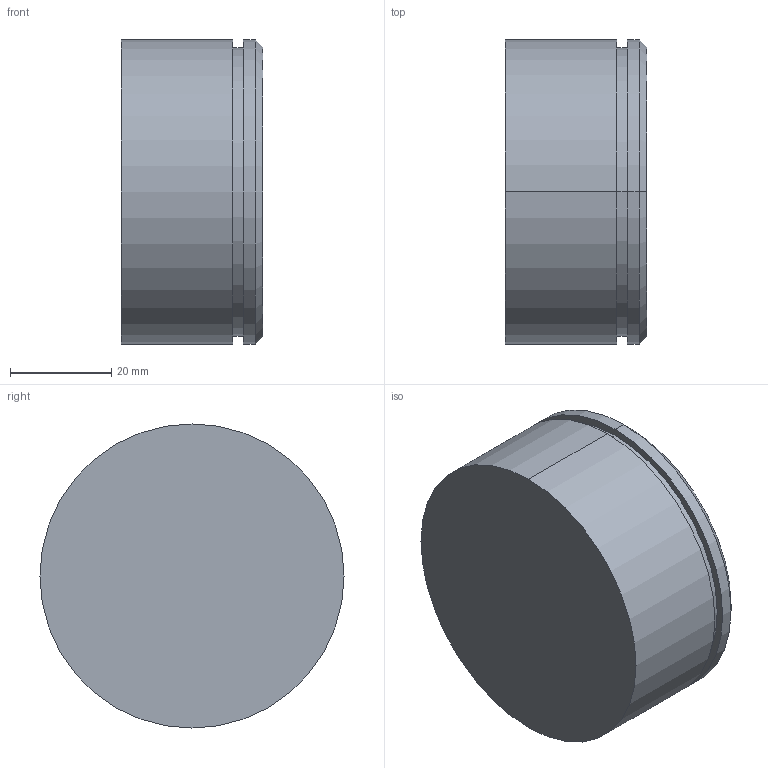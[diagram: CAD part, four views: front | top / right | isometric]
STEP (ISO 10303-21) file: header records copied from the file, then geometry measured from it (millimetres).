
FILE_DESCRIPTION (( 'STEP AP203' ), '1' );
FILE_NAME ('S5-60.STEP', '2002-08-16T10:51:02', ( '.' ), ( '.' ), 'SwSTEP 2.0', 'SolidWorks 2001340', '' );
FILE_SCHEMA (( 'CONFIG_CONTROL_DESIGN' ));
Length unit declared in the file: millimetre
Products named in the file (1): S5-60
Bounding box: 28 x 60 x 60 mm (x, y, z)
Volume: 78366.9 mm3; surface area: 11295.3 mm2
Topology: 1 solids, 1 shells, 12 faces, 22 edges, 14 vertices
Faces by surface type: cylinder 6, plane 4, cone 2
Entity records: 381 total; most frequent: DIRECTION 62, CARTESIAN_POINT 49, ORIENTED_EDGE 44, AXIS2_PLACEMENT_3D 27, EDGE_CURVE 22, VERTEX_POINT 14, EDGE_LOOP 14, CIRCLE 14
